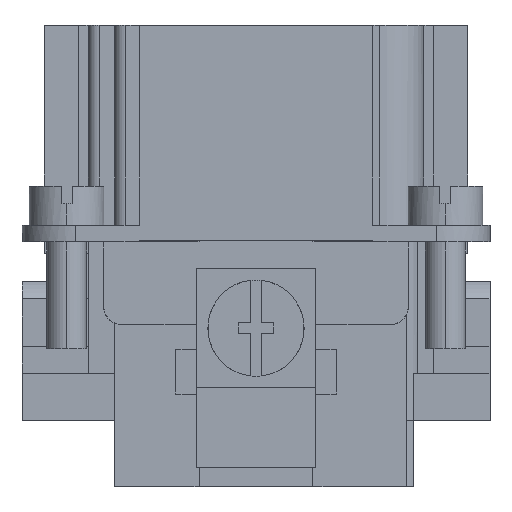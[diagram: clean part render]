
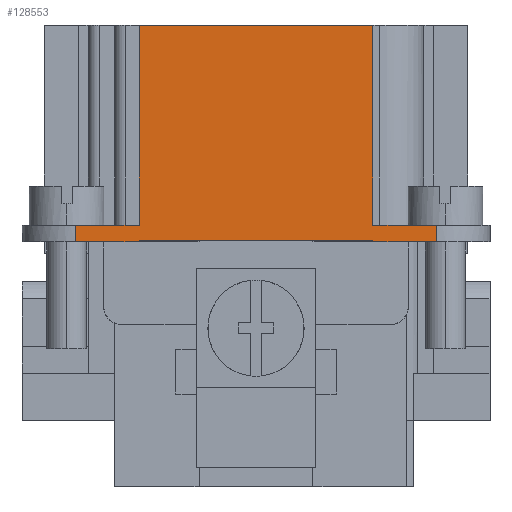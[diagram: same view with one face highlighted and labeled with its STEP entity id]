
A CAD part, left-side view. The second image highlights one B-rep face of the part: STEP entity #128553.
In plain terms, the highlighted planar face has unit normal (-1, 0, 0).
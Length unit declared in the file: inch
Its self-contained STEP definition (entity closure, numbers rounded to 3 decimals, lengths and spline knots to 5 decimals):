
#7186 = VERTEX_POINT ( 'NONE', #103080 ) ;
#7219 = VERTEX_POINT ( 'NONE', #103160 ) ;
#7223 = EDGE_CURVE ( 'NONE', #7225, #7219, #103154, .T. ) ;
#7225 = VERTEX_POINT ( 'NONE', #103150 ) ;
#7276 = EDGE_CURVE ( 'NONE', #7186, #7277, #103266, .T. ) ;
#7277 = VERTEX_POINT ( 'NONE', #103262 ) ;
#88069 = CARTESIAN_POINT ( 'NONE',  ( -2.16, -0.328, -1.295 ) ) ;
#88071 = LINE ( 'NONE', #88069, #88165 ) ;
#88163 = CARTESIAN_POINT ( 'NONE',  ( -2.16, -0.328, 0. ) ) ;
#88164 = DIRECTION ( 'NONE',  ( 0., 0., 1. ) ) ;
#88165 = VECTOR ( 'NONE', #88164, 39.37008 ) ;
#90134 = CARTESIAN_POINT ( 'NONE',  ( -2.16, 0.328, 0. ) ) ;
#90659 = DIRECTION ( 'NONE',  ( 0., 0., 1. ) ) ;
#90660 = VECTOR ( 'NONE', #90659, 39.37008 ) ;
#90661 = CARTESIAN_POINT ( 'NONE',  ( -2.16, 0.328, -1.295 ) ) ;
#90662 = LINE ( 'NONE', #90661, #90660 ) ;
#93918 = DIRECTION ( 'NONE',  ( 0., 1., 0. ) ) ;
#93919 = VECTOR ( 'NONE', #93918, 39.37008 ) ;
#93920 = CARTESIAN_POINT ( 'NONE',  ( -2.16, 0.657, -0.605 ) ) ;
#93924 = CARTESIAN_POINT ( 'NONE',  ( -2.16, -0.328, -0.605 ) ) ;
#93948 = LINE ( 'NONE', #93920, #93919 ) ;
#93988 = CARTESIAN_POINT ( 'NONE',  ( -2.16, 0.328, -0.605 ) ) ;
#96890 = FACE_OUTER_BOUND ( 'NONE', #128666, .T. ) ;
#97295 = CARTESIAN_POINT ( 'NONE',  ( -2.16, -0.507, -0.608 ) ) ;
#97296 = DIRECTION ( 'NONE',  ( 0., -1., 0. ) ) ;
#97297 = VECTOR ( 'NONE', #97296, 39.37008 ) ;
#97298 = CARTESIAN_POINT ( 'NONE',  ( -2.16, -0.11775, -0.608 ) ) ;
#97299 = LINE ( 'NONE', #97298, #97297 ) ;
#97322 = DIRECTION ( 'NONE',  ( 0., 0., -1. ) ) ;
#97323 = VECTOR ( 'NONE', #97322, 39.37008 ) ;
#97324 = CARTESIAN_POINT ( 'NONE',  ( -2.16, -0.507, -0.561 ) ) ;
#97325 = LINE ( 'NONE', #97324, #97323 ) ;
#97365 = DIRECTION ( 'NONE',  ( 0., -1., 0. ) ) ;
#97366 = VECTOR ( 'NONE', #97365, 39.37008 ) ;
#97367 = CARTESIAN_POINT ( 'NONE',  ( -2.16, -0.328, 0. ) ) ;
#97368 = LINE ( 'NONE', #97367, #97366 ) ;
#97443 = DIRECTION ( 'NONE',  ( 0., 0., 1. ) ) ;
#97444 = DIRECTION ( 'NONE',  ( -1., 0., 0. ) ) ;
#97445 = CARTESIAN_POINT ( 'NONE',  ( -2.16, -0.328, -1.295 ) ) ;
#97446 = AXIS2_PLACEMENT_3D ( 'NONE', #97445, #97444, #97443 ) ;
#97447 = PLANE ( 'NONE',  #97446 ) ;
#97848 = CARTESIAN_POINT ( 'NONE',  ( -2.16, 0.328, -0.608 ) ) ;
#97849 = DIRECTION ( 'NONE',  ( 0., 1., 0. ) ) ;
#97850 = VECTOR ( 'NONE', #97849, 39.37008 ) ;
#97851 = CARTESIAN_POINT ( 'NONE',  ( -2.16, 0.11775, -0.608 ) ) ;
#97852 = LINE ( 'NONE', #97851, #97850 ) ;
#97853 = CARTESIAN_POINT ( 'NONE',  ( -2.16, 0.507, -0.608 ) ) ;
#97854 = DIRECTION ( 'NONE',  ( 0., 0., -1. ) ) ;
#97855 = VECTOR ( 'NONE', #97854, 39.37008 ) ;
#97856 = CARTESIAN_POINT ( 'NONE',  ( -2.16, 0.507, -0.561 ) ) ;
#97857 = LINE ( 'NONE', #97856, #97855 ) ;
#97957 = DIRECTION ( 'NONE',  ( 0., 0., -1. ) ) ;
#97958 = VECTOR ( 'NONE', #97957, 39.37008 ) ;
#97959 = CARTESIAN_POINT ( 'NONE',  ( -2.16, 0.328, -0.561 ) ) ;
#97960 = LINE ( 'NONE', #97959, #97958 ) ;
#97991 = CARTESIAN_POINT ( 'NONE',  ( -2.16, -0.328, -0.608 ) ) ;
#97992 = DIRECTION ( 'NONE',  ( 0., 0., -1. ) ) ;
#97993 = VECTOR ( 'NONE', #97992, 39.37008 ) ;
#97994 = CARTESIAN_POINT ( 'NONE',  ( -2.16, -0.328, -0.561 ) ) ;
#97995 = LINE ( 'NONE', #97994, #97993 ) ;
#103080 = CARTESIAN_POINT ( 'NONE',  ( -2.16, -0.328, -0.561 ) ) ;
#103150 = CARTESIAN_POINT ( 'NONE',  ( -2.16, 0.328, -0.561 ) ) ;
#103151 = DIRECTION ( 'NONE',  ( 0., 1., 0. ) ) ;
#103152 = VECTOR ( 'NONE', #103151, 39.37008 ) ;
#103153 = CARTESIAN_POINT ( 'NONE',  ( -2.16, 0.11775, -0.561 ) ) ;
#103154 = LINE ( 'NONE', #103153, #103152 ) ;
#103160 = CARTESIAN_POINT ( 'NONE',  ( -2.16, 0.507, -0.561 ) ) ;
#103262 = CARTESIAN_POINT ( 'NONE',  ( -2.16, -0.507, -0.561 ) ) ;
#103263 = DIRECTION ( 'NONE',  ( 0., -1., 0. ) ) ;
#103264 = VECTOR ( 'NONE', #103263, 39.37008 ) ;
#103265 = CARTESIAN_POINT ( 'NONE',  ( -2.16, -0.11775, -0.561 ) ) ;
#103266 = LINE ( 'NONE', #103265, #103264 ) ;
#127092 = EDGE_CURVE ( 'NONE', #7186, #127094, #88071, .T. ) ;
#127094 = VERTEX_POINT ( 'NONE', #88163 ) ;
#127335 = VERTEX_POINT ( 'NONE', #90134 ) ;
#127413 = EDGE_CURVE ( 'NONE', #7225, #127335, #90662, .T. ) ;
#127986 = VERTEX_POINT ( 'NONE', #93924 ) ;
#127991 = EDGE_CURVE ( 'NONE', #127986, #127993, #93948, .T. ) ;
#127993 = VERTEX_POINT ( 'NONE', #93988 ) ;
#128523 = ORIENTED_EDGE ( 'NONE', *, *, #128524, .T. ) ;
#128524 = EDGE_CURVE ( 'NONE', #128695, #128526, #97299, .T. ) ;
#128526 = VERTEX_POINT ( 'NONE', #97295 ) ;
#128528 = ORIENTED_EDGE ( 'NONE', *, *, #128531, .F. ) ;
#128531 = EDGE_CURVE ( 'NONE', #7277, #128526, #97325, .T. ) ;
#128533 = ORIENTED_EDGE ( 'NONE', *, *, #7276, .F. ) ;
#128535 = ORIENTED_EDGE ( 'NONE', *, *, #127092, .T. ) ;
#128537 = ORIENTED_EDGE ( 'NONE', *, *, #128538, .F. ) ;
#128538 = EDGE_CURVE ( 'NONE', #127335, #127094, #97368, .T. ) ;
#128553 = ADVANCED_FACE ( 'NONE', ( #96890 ), #97447, .T. ) ;
#128666 = EDGE_LOOP ( 'NONE', ( #128668, #128671, #128673, #128678, #128685, #128690, #128692, #128523, #128528, #128533, #128535, #128537 ) ) ;
#128668 = ORIENTED_EDGE ( 'NONE', *, *, #127413, .F. ) ;
#128671 = ORIENTED_EDGE ( 'NONE', *, *, #7223, .T. ) ;
#128673 = ORIENTED_EDGE ( 'NONE', *, *, #128675, .T. ) ;
#128675 = EDGE_CURVE ( 'NONE', #7219, #128676, #97857, .T. ) ;
#128676 = VERTEX_POINT ( 'NONE', #97853 ) ;
#128678 = ORIENTED_EDGE ( 'NONE', *, *, #128680, .F. ) ;
#128680 = EDGE_CURVE ( 'NONE', #128682, #128676, #97852, .T. ) ;
#128682 = VERTEX_POINT ( 'NONE', #97848 ) ;
#128685 = ORIENTED_EDGE ( 'NONE', *, *, #128687, .F. ) ;
#128687 = EDGE_CURVE ( 'NONE', #127993, #128682, #97960, .T. ) ;
#128690 = ORIENTED_EDGE ( 'NONE', *, *, #127991, .F. ) ;
#128692 = ORIENTED_EDGE ( 'NONE', *, *, #128693, .T. ) ;
#128693 = EDGE_CURVE ( 'NONE', #127986, #128695, #97995, .T. ) ;
#128695 = VERTEX_POINT ( 'NONE', #97991 ) ;
